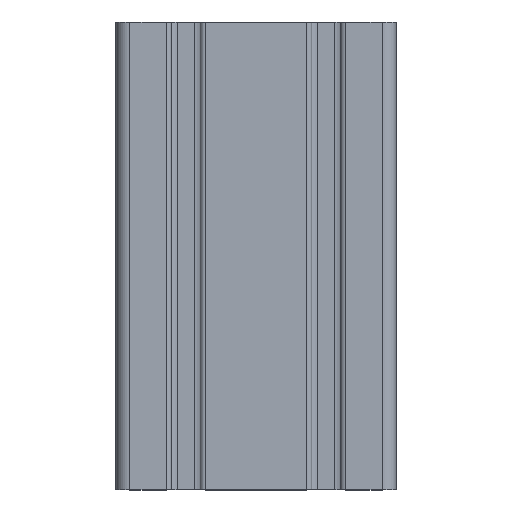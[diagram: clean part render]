
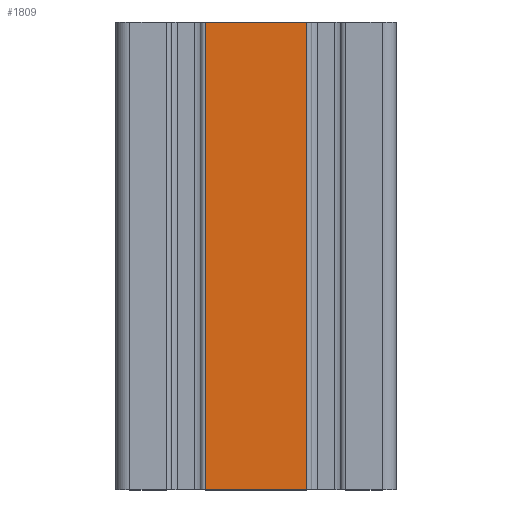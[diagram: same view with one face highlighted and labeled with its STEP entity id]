
A CAD part, top view. The second image highlights one B-rep face of the part: STEP entity #1809.
In plain terms, the highlighted planar face has unit normal (0, 0, 1).
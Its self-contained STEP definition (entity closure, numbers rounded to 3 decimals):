
#310 = DIRECTION ( 'NONE',  ( 1., 0., 0. ) ) ;
#400 = CARTESIAN_POINT ( 'NONE',  ( 10.9, -50., 15. ) ) ;
#577 = ORIENTED_EDGE ( 'NONE', *, *, #3064, .F. ) ;
#617 = DIRECTION ( 'NONE',  ( 1., 0., 0. ) ) ;
#638 = CARTESIAN_POINT ( 'NONE',  ( -10.9, 50., 15. ) ) ;
#649 = CARTESIAN_POINT ( 'NONE',  ( -10.9, 50., 15. ) ) ;
#798 = LINE ( 'NONE', #2858, #3995 ) ;
#817 = EDGE_CURVE ( 'NONE', #1942, #3674, #4224, .T. ) ;
#848 = EDGE_CURVE ( 'NONE', #1096, #4143, #2944, .T. ) ;
#1096 = VERTEX_POINT ( 'NONE', #2735 ) ;
#1188 = EDGE_LOOP ( 'NONE', ( #2020, #577, #3229, #1470 ) ) ;
#1325 = DIRECTION ( 'NONE',  ( 0., -1., 0. ) ) ;
#1340 = CARTESIAN_POINT ( 'NONE',  ( -10.9, 50., 15. ) ) ;
#1470 = ORIENTED_EDGE ( 'NONE', *, *, #1609, .T. ) ;
#1589 = PLANE ( 'NONE',  #2267 ) ;
#1609 = EDGE_CURVE ( 'NONE', #1942, #1096, #3619, .T. ) ;
#1809 = ADVANCED_FACE ( 'NONE', ( #4231 ), #1589, .F. ) ;
#1942 = VERTEX_POINT ( 'NONE', #1340 ) ;
#1995 = VECTOR ( 'NONE', #1325, 1000. ) ;
#2020 = ORIENTED_EDGE ( 'NONE', *, *, #848, .T. ) ;
#2267 = AXIS2_PLACEMENT_3D ( 'NONE', #2538, #3553, #2579 ) ;
#2538 = CARTESIAN_POINT ( 'NONE',  ( -10.9, 50., 15. ) ) ;
#2579 = DIRECTION ( 'NONE',  ( -1., 0., 0. ) ) ;
#2653 = VECTOR ( 'NONE', #617, 1000. ) ;
#2735 = CARTESIAN_POINT ( 'NONE',  ( -10.9, -50., 15. ) ) ;
#2858 = CARTESIAN_POINT ( 'NONE',  ( 10.9, 50., 15. ) ) ;
#2944 = LINE ( 'NONE', #3590, #3977 ) ;
#3064 = EDGE_CURVE ( 'NONE', #3674, #4143, #798, .T. ) ;
#3229 = ORIENTED_EDGE ( 'NONE', *, *, #817, .F. ) ;
#3442 = DIRECTION ( 'NONE',  ( 0., -1., 0. ) ) ;
#3553 = DIRECTION ( 'NONE',  ( 0., 0., -1. ) ) ;
#3590 = CARTESIAN_POINT ( 'NONE',  ( -10.9, -50., 15. ) ) ;
#3619 = LINE ( 'NONE', #649, #1995 ) ;
#3674 = VERTEX_POINT ( 'NONE', #3893 ) ;
#3893 = CARTESIAN_POINT ( 'NONE',  ( 10.9, 50., 15. ) ) ;
#3977 = VECTOR ( 'NONE', #310, 1000. ) ;
#3995 = VECTOR ( 'NONE', #3442, 1000. ) ;
#4143 = VERTEX_POINT ( 'NONE', #400 ) ;
#4224 = LINE ( 'NONE', #638, #2653 ) ;
#4231 = FACE_OUTER_BOUND ( 'NONE', #1188, .T. ) ;
